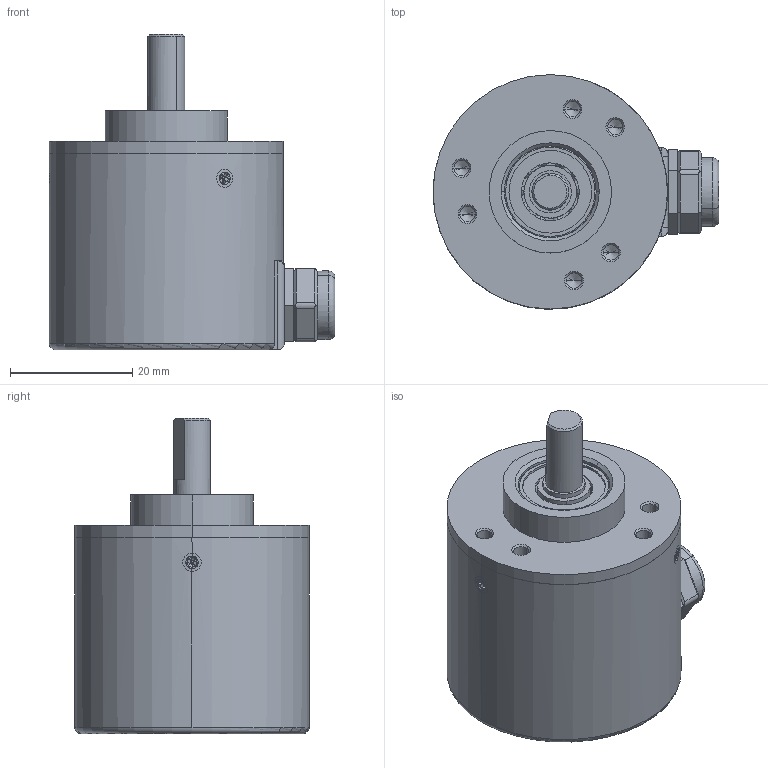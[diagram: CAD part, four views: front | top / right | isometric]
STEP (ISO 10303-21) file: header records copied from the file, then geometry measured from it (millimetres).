
FILE_DESCRIPTION (( 'STEP AP214' ), '1' );
FILE_NAME ('3806.STEP', '2024-05-06T05:53:43', ( 'Windows User' ), ( 'P R C' ), 'SwSTEP 2.0', 'SolidWorks 2020', '' );
FILE_SCHEMA (( 'AUTOMOTIVE_DESIGN' ));
Length unit declared in the file: millimetre
Products named in the file (8): 滅阨芛; M2蹟佪2; 3806; GTS06俋褲; 滅阨芛簽; GTS06-S粣38.2mm; 耳38翋极-CHB3806; GB／T276-94深沟球轴承619／6-2Z
Assembly tree (9 placements, depth 2):
  3806
    GTS06俋褲
    耳38翋极-CHB3806
    GTS06-S粣38.2mm
    GB／T276-94深沟球轴承619／6-2Z
    滅阨芛
    滅阨芛簽
    M2蹟佪2  x3
Bounding box: 46.7 x 38.3 x 51.51 mm (x, y, z)
Volume: 20087.5 mm3; surface area: 19645.1 mm2
Topology: 9 solids, 9 shells, 550 faces, 1498 edges, 951 vertices
Faces by surface type: cylinder 206, plane 130, sphere 80, cone 78, torus 44, bspline 12
Entity records: 25141 total; most frequent: CARTESIAN_POINT 10459, ORIENTED_EDGE 2756, DIRECTION 2427, EDGE_CURVE 1378, AXIS2_PLACEMENT_3D 1017, VERTEX_POINT 891, EDGE_LOOP 575, ADVANCED_FACE 510
